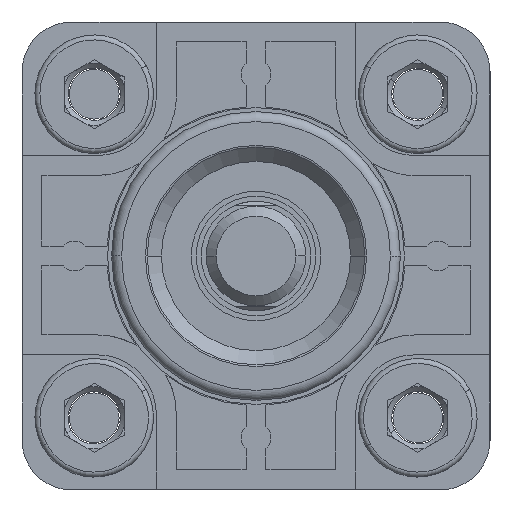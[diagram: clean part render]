
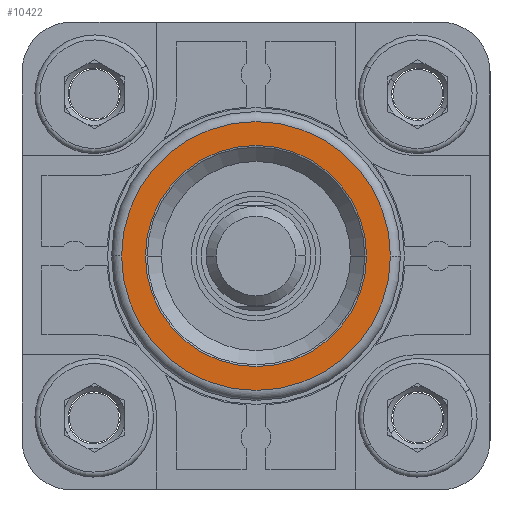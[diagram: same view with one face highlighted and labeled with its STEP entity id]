
A CAD part, left-side view. The second image highlights one B-rep face of the part: STEP entity #10422.
In plain terms, the highlighted planar face has unit normal (-1, 0, 0).
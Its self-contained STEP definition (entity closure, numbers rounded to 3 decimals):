
#9921=CARTESIAN_POINT('Vertex',(-46.5,-13.5,0.)) ;
#9928=CARTESIAN_POINT('Vertex',(-46.5,13.5,0.)) ;
#9931=CARTESIAN_POINT('Axis2P3D Location',(-46.5,0.,0.)) ;
#9948=CARTESIAN_POINT('Axis2P3D Location',(-46.5,0.,0.)) ;
#10395=CARTESIAN_POINT('Axis2P3D Location',(-46.5,0.,0.)) ;
#10404=CARTESIAN_POINT('Axis2P3D Location',(-46.5,0.,0.)) ;
#10408=CARTESIAN_POINT('Vertex',(-46.5,-11.104,0.)) ;
#10410=CARTESIAN_POINT('Vertex',(-46.5,11.104,0.)) ;
#10413=CARTESIAN_POINT('Axis2P3D Location',(-46.5,0.,0.)) ;
#9932=DIRECTION('Axis2P3D Direction',(-1.,-0.,0.)) ;
#9949=DIRECTION('Axis2P3D Direction',(-1.,0.,0.)) ;
#10396=DIRECTION('Axis2P3D Direction',(-1.,0.,0.)) ;
#10397=DIRECTION('Axis2P3D XDirection',(0.,-1.,0.)) ;
#10405=DIRECTION('Axis2P3D Direction',(-1.,0.,0.)) ;
#10414=DIRECTION('Axis2P3D Direction',(-1.,0.,0.)) ;
#9933=AXIS2_PLACEMENT_3D('Circle Axis2P3D',#9931,#9932,$) ;
#9950=AXIS2_PLACEMENT_3D('Circle Axis2P3D',#9948,#9949,$) ;
#10398=AXIS2_PLACEMENT_3D('Plane Axis2P3D',#10395,#10396,#10397) ;
#10406=AXIS2_PLACEMENT_3D('Circle Axis2P3D',#10404,#10405,$) ;
#10415=AXIS2_PLACEMENT_3D('Circle Axis2P3D',#10413,#10414,$) ;
#10401=ORIENTED_EDGE('',*,*,#9952,.T.) ;
#10402=ORIENTED_EDGE('',*,*,#9935,.T.) ;
#10419=ORIENTED_EDGE('',*,*,#10412,.T.) ;
#10420=ORIENTED_EDGE('',*,*,#10417,.T.) ;
#10421=FACE_BOUND('',#10418,.T.) ;
#10422=ADVANCED_FACE('PartBody',(#10403,#10421),#10399,.T.) ;
#9934=CIRCLE('generated circle',#9933,13.5) ;
#9951=CIRCLE('generated circle',#9950,13.5) ;
#10407=CIRCLE('generated circle',#10406,11.104) ;
#10416=CIRCLE('generated circle',#10415,11.104) ;
#9935=EDGE_CURVE('',#9922,#9929,#9934,.T.) ;
#9952=EDGE_CURVE('',#9929,#9922,#9951,.T.) ;
#10412=EDGE_CURVE('',#10409,#10411,#10407,.F.) ;
#10417=EDGE_CURVE('',#10411,#10409,#10416,.F.) ;
#10400=EDGE_LOOP('',(#10401,#10402)) ;
#10418=EDGE_LOOP('',(#10419,#10420)) ;
#10403=FACE_OUTER_BOUND('',#10400,.T.) ;
#10399=PLANE('',#10398) ;
#9922=VERTEX_POINT('',#9921) ;
#9929=VERTEX_POINT('',#9928) ;
#10409=VERTEX_POINT('',#10408) ;
#10411=VERTEX_POINT('',#10410) ;
